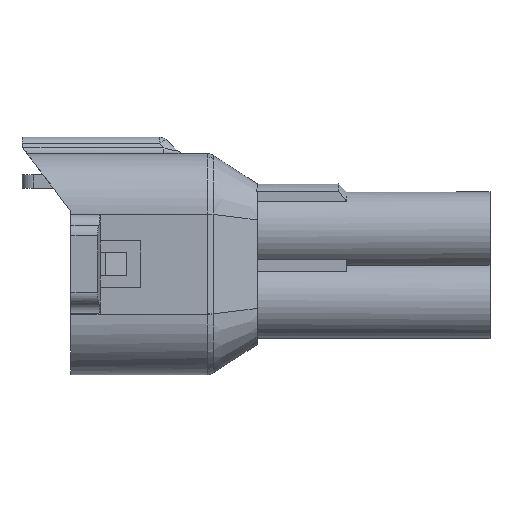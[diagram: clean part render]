
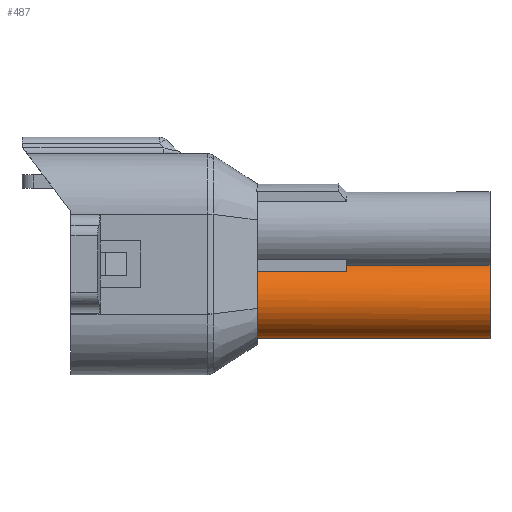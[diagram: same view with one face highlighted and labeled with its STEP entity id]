
A CAD part, front view. The second image highlights one B-rep face of the part: STEP entity #487.
In plain terms, the highlighted cylindrical face has radius 3.3 mm (diameter 6.6 mm), a partial arc.
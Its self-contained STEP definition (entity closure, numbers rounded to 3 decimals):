
#54=AXIS2_PLACEMENT_3D('Circle Axis2P3D',#52,#53,$) ;
#144=AXIS2_PLACEMENT_3D('Circle Axis2P3D',#142,#143,$) ;
#443=AXIS2_PLACEMENT_3D('Cylinder Axis2P3D',#440,#441,#442) ;
#454=AXIS2_PLACEMENT_3D('Circle Axis2P3D',#452,#453,$) ;
#468=AXIS2_PLACEMENT_3D('Circle Axis2P3D',#466,#467,$) ;
#49=CARTESIAN_POINT('Vertex',(1.,3.,-6.275)) ;
#52=CARTESIAN_POINT('Axis2P3D Location',(1.,0.,-4.9)) ;
#56=CARTESIAN_POINT('Vertex',(1.,-3.3,-4.9)) ;
#127=CARTESIAN_POINT('Vertex',(1.,-2.2,-2.44)) ;
#142=CARTESIAN_POINT('Axis2P3D Location',(1.,0.,-4.9)) ;
#440=CARTESIAN_POINT('Axis2P3D Location',(11.61,0.,-4.9)) ;
#445=CARTESIAN_POINT('Line Origine',(11.61,3.,-6.275)) ;
#449=CARTESIAN_POINT('Vertex',(21.,3.,-6.275)) ;
#452=CARTESIAN_POINT('Axis2P3D Location',(21.,0.,-4.9)) ;
#456=CARTESIAN_POINT('Vertex',(21.,-1.375,-1.9)) ;
#459=CARTESIAN_POINT('Line Origine',(11.61,-1.375,-1.9)) ;
#463=CARTESIAN_POINT('Vertex',(8.7,-1.375,-1.9)) ;
#466=CARTESIAN_POINT('Axis2P3D Location',(8.7,0.,-4.9)) ;
#470=CARTESIAN_POINT('Vertex',(8.7,-2.2,-2.44)) ;
#473=CARTESIAN_POINT('Line Origine',(11.61,-2.2,-2.44)) ;
#53=DIRECTION('Axis2P3D Direction',(-1.,0.,0.)) ;
#143=DIRECTION('Axis2P3D Direction',(-1.,0.,0.)) ;
#441=DIRECTION('Axis2P3D Direction',(-1.,0.,0.)) ;
#442=DIRECTION('Axis2P3D XDirection',(0.,0.909,-0.417)) ;
#446=DIRECTION('Vector Direction',(-1.,0.,0.)) ;
#453=DIRECTION('Axis2P3D Direction',(-1.,0.,0.)) ;
#460=DIRECTION('Vector Direction',(-1.,0.,0.)) ;
#467=DIRECTION('Axis2P3D Direction',(-1.,0.,0.)) ;
#474=DIRECTION('Vector Direction',(-1.,0.,0.)) ;
#447=VECTOR('Line Direction',#446,1.) ;
#461=VECTOR('Line Direction',#460,1.) ;
#475=VECTOR('Line Direction',#474,1.) ;
#479=ORIENTED_EDGE('',*,*,#146,.F.) ;
#480=ORIENTED_EDGE('',*,*,#58,.F.) ;
#481=ORIENTED_EDGE('',*,*,#451,.T.) ;
#482=ORIENTED_EDGE('',*,*,#458,.F.) ;
#483=ORIENTED_EDGE('',*,*,#465,.F.) ;
#484=ORIENTED_EDGE('',*,*,#472,.T.) ;
#485=ORIENTED_EDGE('',*,*,#477,.F.) ;
#487=ADVANCED_FACE('\X2\FF8AFF9FFF70FF82\X0\ \X2\FF8EFF9EFF83FF9EFF68FF70\X0\',(#486),#444,.T.) ;
#55=CIRCLE('generated circle',#54,3.3) ;
#145=CIRCLE('generated circle',#144,3.3) ;
#455=CIRCLE('generated circle',#454,3.3) ;
#469=CIRCLE('generated circle',#468,3.3) ;
#444=CYLINDRICAL_SURFACE('generated cylinder',#443,3.3) ;
#58=EDGE_CURVE('',#50,#57,#55,.T.) ;
#146=EDGE_CURVE('',#57,#128,#145,.T.) ;
#451=EDGE_CURVE('',#50,#450,#448,.F.) ;
#458=EDGE_CURVE('',#457,#450,#455,.F.) ;
#465=EDGE_CURVE('',#464,#457,#462,.F.) ;
#472=EDGE_CURVE('',#464,#471,#469,.F.) ;
#477=EDGE_CURVE('',#128,#471,#476,.F.) ;
#478=EDGE_LOOP('',(#479,#480,#481,#482,#483,#484,#485)) ;
#486=FACE_OUTER_BOUND('',#478,.T.) ;
#448=LINE('Line',#445,#447) ;
#462=LINE('Line',#459,#461) ;
#476=LINE('Line',#473,#475) ;
#50=VERTEX_POINT('',#49) ;
#57=VERTEX_POINT('',#56) ;
#128=VERTEX_POINT('',#127) ;
#450=VERTEX_POINT('',#449) ;
#457=VERTEX_POINT('',#456) ;
#464=VERTEX_POINT('',#463) ;
#471=VERTEX_POINT('',#470) ;
